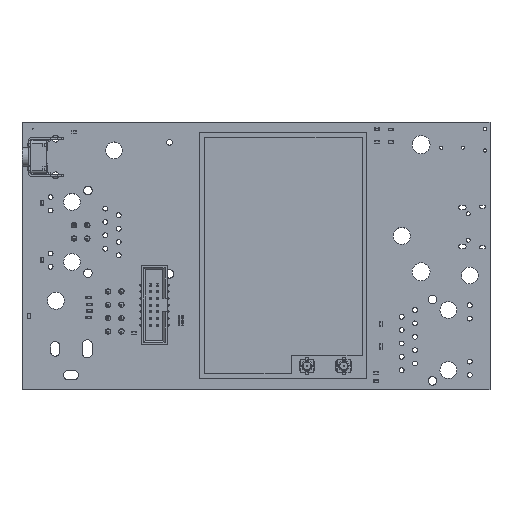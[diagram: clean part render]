
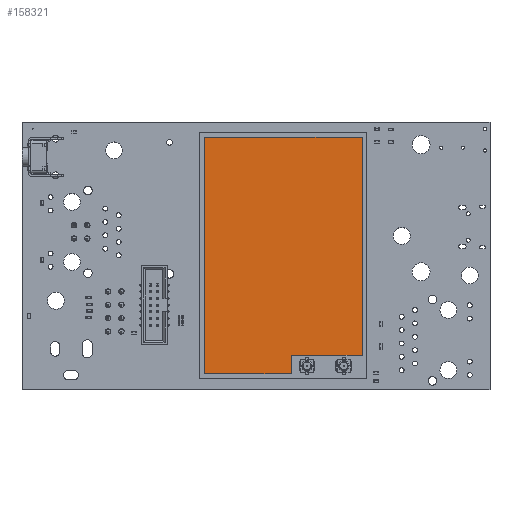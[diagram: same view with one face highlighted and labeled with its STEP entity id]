
A CAD part, top view. The second image highlights one B-rep face of the part: STEP entity #158321.
In plain terms, the highlighted planar face has unit normal (0, 0, 1).
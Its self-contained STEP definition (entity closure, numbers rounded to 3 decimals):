
#157853 = VERTEX_POINT('',#157854);
#157854 = CARTESIAN_POINT('',(-15.,-22.5,2.4));
#157861 = PLANE('',#157862);
#157862 = AXIS2_PLACEMENT_3D('',#157863,#157864,#157865);
#157863 = CARTESIAN_POINT('',(-15.,-22.5,0.));
#157864 = DIRECTION('',(-1.,0.,0.));
#157865 = DIRECTION('',(0.,1.,0.));
#157873 = PLANE('',#157874);
#157874 = AXIS2_PLACEMENT_3D('',#157875,#157876,#157877);
#157875 = CARTESIAN_POINT('',(1.5,-22.5,0.));
#157876 = DIRECTION('',(0.,-1.,0.));
#157877 = DIRECTION('',(-1.,0.,0.));
#157885 = EDGE_CURVE('',#157853,#157886,#157888,.T.);
#157886 = VERTEX_POINT('',#157887);
#157887 = CARTESIAN_POINT('',(-15.,22.5,2.4));
#157888 = SURFACE_CURVE('',#157889,(#157893,#157900),.PCURVE_S1.);
#157889 = LINE('',#157890,#157891);
#157890 = CARTESIAN_POINT('',(-15.,-22.5,2.4));
#157891 = VECTOR('',#157892,1.);
#157892 = DIRECTION('',(0.,1.,0.));
#157893 = PCURVE('',#157861,#157894);
#157894 = DEFINITIONAL_REPRESENTATION('',(#157895),#157899);
#157895 = LINE('',#157896,#157897);
#157896 = CARTESIAN_POINT('',(0.,-2.4));
#157897 = VECTOR('',#157898,1.);
#157898 = DIRECTION('',(1.,0.));
#157899 = ( GEOMETRIC_REPRESENTATION_CONTEXT(2) 
PARAMETRIC_REPRESENTATION_CONTEXT() REPRESENTATION_CONTEXT('2D SPACE',''
  ) );
#157900 = PCURVE('',#157901,#157906);
#157901 = PLANE('',#157902);
#157902 = AXIS2_PLACEMENT_3D('',#157903,#157904,#157905);
#157903 = CARTESIAN_POINT('',(-15.,-22.5,2.4));
#157904 = DIRECTION('',(0.,0.,1.));
#157905 = DIRECTION('',(1.,0.,0.));
#157906 = DEFINITIONAL_REPRESENTATION('',(#157907),#157911);
#157907 = LINE('',#157908,#157909);
#157908 = CARTESIAN_POINT('',(0.,0.));
#157909 = VECTOR('',#157910,1.);
#157910 = DIRECTION('',(0.,1.));
#157911 = ( GEOMETRIC_REPRESENTATION_CONTEXT(2) 
PARAMETRIC_REPRESENTATION_CONTEXT() REPRESENTATION_CONTEXT('2D SPACE',''
  ) );
#157929 = PLANE('',#157930);
#157930 = AXIS2_PLACEMENT_3D('',#157931,#157932,#157933);
#157931 = CARTESIAN_POINT('',(-15.,22.5,0.));
#157932 = DIRECTION('',(0.,1.,0.));
#157933 = DIRECTION('',(1.,0.,0.));
#157971 = EDGE_CURVE('',#157886,#157972,#157974,.T.);
#157972 = VERTEX_POINT('',#157973);
#157973 = CARTESIAN_POINT('',(15.,22.5,2.4));
#157974 = SURFACE_CURVE('',#157975,(#157979,#157986),.PCURVE_S1.);
#157975 = LINE('',#157976,#157977);
#157976 = CARTESIAN_POINT('',(-15.,22.5,2.4));
#157977 = VECTOR('',#157978,1.);
#157978 = DIRECTION('',(1.,0.,0.));
#157979 = PCURVE('',#157929,#157980);
#157980 = DEFINITIONAL_REPRESENTATION('',(#157981),#157985);
#157981 = LINE('',#157982,#157983);
#157982 = CARTESIAN_POINT('',(0.,-2.4));
#157983 = VECTOR('',#157984,1.);
#157984 = DIRECTION('',(1.,0.));
#157985 = ( GEOMETRIC_REPRESENTATION_CONTEXT(2) 
PARAMETRIC_REPRESENTATION_CONTEXT() REPRESENTATION_CONTEXT('2D SPACE',''
  ) );
#157986 = PCURVE('',#157901,#157987);
#157987 = DEFINITIONAL_REPRESENTATION('',(#157988),#157992);
#157988 = LINE('',#157989,#157990);
#157989 = CARTESIAN_POINT('',(0.,45.));
#157990 = VECTOR('',#157991,1.);
#157991 = DIRECTION('',(1.,0.));
#157992 = ( GEOMETRIC_REPRESENTATION_CONTEXT(2) 
PARAMETRIC_REPRESENTATION_CONTEXT() REPRESENTATION_CONTEXT('2D SPACE',''
  ) );
#158010 = PLANE('',#158011);
#158011 = AXIS2_PLACEMENT_3D('',#158012,#158013,#158014);
#158012 = CARTESIAN_POINT('',(15.,22.5,0.));
#158013 = DIRECTION('',(1.,0.,0.));
#158014 = DIRECTION('',(0.,-1.,0.));
#158047 = EDGE_CURVE('',#157972,#158048,#158050,.T.);
#158048 = VERTEX_POINT('',#158049);
#158049 = CARTESIAN_POINT('',(15.,-19.,2.4));
#158050 = SURFACE_CURVE('',#158051,(#158055,#158062),.PCURVE_S1.);
#158051 = LINE('',#158052,#158053);
#158052 = CARTESIAN_POINT('',(15.,22.5,2.4));
#158053 = VECTOR('',#158054,1.);
#158054 = DIRECTION('',(0.,-1.,0.));
#158055 = PCURVE('',#158010,#158056);
#158056 = DEFINITIONAL_REPRESENTATION('',(#158057),#158061);
#158057 = LINE('',#158058,#158059);
#158058 = CARTESIAN_POINT('',(0.,-2.4));
#158059 = VECTOR('',#158060,1.);
#158060 = DIRECTION('',(1.,0.));
#158061 = ( GEOMETRIC_REPRESENTATION_CONTEXT(2) 
PARAMETRIC_REPRESENTATION_CONTEXT() REPRESENTATION_CONTEXT('2D SPACE',''
  ) );
#158062 = PCURVE('',#157901,#158063);
#158063 = DEFINITIONAL_REPRESENTATION('',(#158064),#158068);
#158064 = LINE('',#158065,#158066);
#158065 = CARTESIAN_POINT('',(30.,45.));
#158066 = VECTOR('',#158067,1.);
#158067 = DIRECTION('',(0.,-1.));
#158068 = ( GEOMETRIC_REPRESENTATION_CONTEXT(2) 
PARAMETRIC_REPRESENTATION_CONTEXT() REPRESENTATION_CONTEXT('2D SPACE',''
  ) );
#158086 = PLANE('',#158087);
#158087 = AXIS2_PLACEMENT_3D('',#158088,#158089,#158090);
#158088 = CARTESIAN_POINT('',(15.,-19.,0.));
#158089 = DIRECTION('',(0.,-1.,0.));
#158090 = DIRECTION('',(-1.,0.,0.));
#158123 = EDGE_CURVE('',#158048,#158124,#158126,.T.);
#158124 = VERTEX_POINT('',#158125);
#158125 = CARTESIAN_POINT('',(1.5,-19.,2.4));
#158126 = SURFACE_CURVE('',#158127,(#158131,#158138),.PCURVE_S1.);
#158127 = LINE('',#158128,#158129);
#158128 = CARTESIAN_POINT('',(15.,-19.,2.4));
#158129 = VECTOR('',#158130,1.);
#158130 = DIRECTION('',(-1.,0.,0.));
#158131 = PCURVE('',#158086,#158132);
#158132 = DEFINITIONAL_REPRESENTATION('',(#158133),#158137);
#158133 = LINE('',#158134,#158135);
#158134 = CARTESIAN_POINT('',(0.,-2.4));
#158135 = VECTOR('',#158136,1.);
#158136 = DIRECTION('',(1.,0.));
#158137 = ( GEOMETRIC_REPRESENTATION_CONTEXT(2) 
PARAMETRIC_REPRESENTATION_CONTEXT() REPRESENTATION_CONTEXT('2D SPACE',''
  ) );
#158138 = PCURVE('',#157901,#158139);
#158139 = DEFINITIONAL_REPRESENTATION('',(#158140),#158144);
#158140 = LINE('',#158141,#158142);
#158141 = CARTESIAN_POINT('',(30.,3.5));
#158142 = VECTOR('',#158143,1.);
#158143 = DIRECTION('',(-1.,0.));
#158144 = ( GEOMETRIC_REPRESENTATION_CONTEXT(2) 
PARAMETRIC_REPRESENTATION_CONTEXT() REPRESENTATION_CONTEXT('2D SPACE',''
  ) );
#158162 = PLANE('',#158163);
#158163 = AXIS2_PLACEMENT_3D('',#158164,#158165,#158166);
#158164 = CARTESIAN_POINT('',(1.5,-19.,0.));
#158165 = DIRECTION('',(1.,0.,0.));
#158166 = DIRECTION('',(0.,-1.,0.));
#158199 = EDGE_CURVE('',#158124,#158200,#158202,.T.);
#158200 = VERTEX_POINT('',#158201);
#158201 = CARTESIAN_POINT('',(1.5,-22.5,2.4));
#158202 = SURFACE_CURVE('',#158203,(#158207,#158214),.PCURVE_S1.);
#158203 = LINE('',#158204,#158205);
#158204 = CARTESIAN_POINT('',(1.5,-19.,2.4));
#158205 = VECTOR('',#158206,1.);
#158206 = DIRECTION('',(0.,-1.,0.));
#158207 = PCURVE('',#158162,#158208);
#158208 = DEFINITIONAL_REPRESENTATION('',(#158209),#158213);
#158209 = LINE('',#158210,#158211);
#158210 = CARTESIAN_POINT('',(0.,-2.4));
#158211 = VECTOR('',#158212,1.);
#158212 = DIRECTION('',(1.,0.));
#158213 = ( GEOMETRIC_REPRESENTATION_CONTEXT(2) 
PARAMETRIC_REPRESENTATION_CONTEXT() REPRESENTATION_CONTEXT('2D SPACE',''
  ) );
#158214 = PCURVE('',#157901,#158215);
#158215 = DEFINITIONAL_REPRESENTATION('',(#158216),#158220);
#158216 = LINE('',#158217,#158218);
#158217 = CARTESIAN_POINT('',(16.5,3.5));
#158218 = VECTOR('',#158219,1.);
#158219 = DIRECTION('',(0.,-1.));
#158220 = ( GEOMETRIC_REPRESENTATION_CONTEXT(2) 
PARAMETRIC_REPRESENTATION_CONTEXT() REPRESENTATION_CONTEXT('2D SPACE',''
  ) );
#158270 = EDGE_CURVE('',#158200,#157853,#158271,.T.);
#158271 = SURFACE_CURVE('',#158272,(#158276,#158283),.PCURVE_S1.);
#158272 = LINE('',#158273,#158274);
#158273 = CARTESIAN_POINT('',(1.5,-22.5,2.4));
#158274 = VECTOR('',#158275,1.);
#158275 = DIRECTION('',(-1.,0.,0.));
#158276 = PCURVE('',#157873,#158277);
#158277 = DEFINITIONAL_REPRESENTATION('',(#158278),#158282);
#158278 = LINE('',#158279,#158280);
#158279 = CARTESIAN_POINT('',(0.,-2.4));
#158280 = VECTOR('',#158281,1.);
#158281 = DIRECTION('',(1.,0.));
#158282 = ( GEOMETRIC_REPRESENTATION_CONTEXT(2) 
PARAMETRIC_REPRESENTATION_CONTEXT() REPRESENTATION_CONTEXT('2D SPACE',''
  ) );
#158283 = PCURVE('',#157901,#158284);
#158284 = DEFINITIONAL_REPRESENTATION('',(#158285),#158289);
#158285 = LINE('',#158286,#158287);
#158286 = CARTESIAN_POINT('',(16.5,0.));
#158287 = VECTOR('',#158288,1.);
#158288 = DIRECTION('',(-1.,0.));
#158289 = ( GEOMETRIC_REPRESENTATION_CONTEXT(2) 
PARAMETRIC_REPRESENTATION_CONTEXT() REPRESENTATION_CONTEXT('2D SPACE',''
  ) );
#158321 = ADVANCED_FACE('',(#158322),#157901,.T.);
#158322 = FACE_BOUND('',#158323,.F.);
#158323 = EDGE_LOOP('',(#158324,#158325,#158326,#158327,#158328,#158329)
  );
#158324 = ORIENTED_EDGE('',*,*,#157885,.T.);
#158325 = ORIENTED_EDGE('',*,*,#157971,.T.);
#158326 = ORIENTED_EDGE('',*,*,#158047,.T.);
#158327 = ORIENTED_EDGE('',*,*,#158123,.T.);
#158328 = ORIENTED_EDGE('',*,*,#158199,.T.);
#158329 = ORIENTED_EDGE('',*,*,#158270,.T.);
